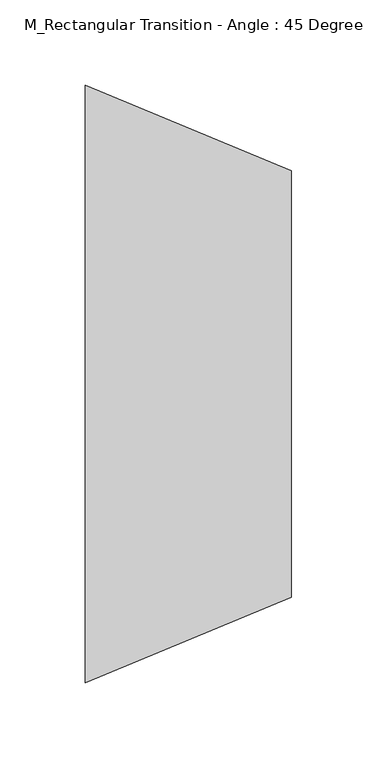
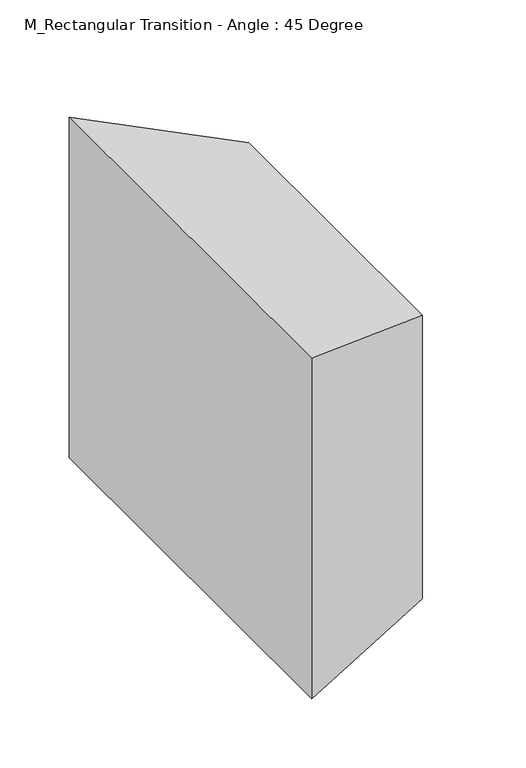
"""IFC4 building model written with IfcOpenShell, lengths in millimetres: duct fitting geometry, M_Rectangular Transition - Angle : 45 Degree."""

from ifc_helpers import new_model, si_unit, origin, place, context, project, spatial, faceted_brep, source, transform, mapped, element, save


def m_rectangular_transition_angle_45_degree_a06503df(model_context):
    return source(origin(), model_context, "Body", "Brep", [
        faceted_brep([(120.7106781, -125.0, 115.45), (120.7106781, -125.0, -134.55), (120.7106781, 125.0, -134.55), (120.7106781, 125.0, 115.45), (0.0, -175.0, 150.0), (0.0, 175.0, 150.0), (0.0, 175.0, -150.0), (0.0, -175.0, -150.0)], [[[0, 1, 2, 3]], [[4, 5, 6, 7]], [[4, 7, 1, 0]], [[7, 6, 2, 1]], [[6, 5, 3, 2]], [[5, 4, 0, 3]]]),
        faceted_brep([(120.7106781, -125.0, 115.45), (120.7106781, -125.0, -134.55), (120.7106781, 125.0, -134.55), (120.7106781, 125.0, 115.45), (0.0, -175.0, 150.0), (0.0, 175.0, 150.0), (0.0, 175.0, -150.0), (0.0, -175.0, -150.0)], [[[0, 1, 2, 3]], [[4, 5, 6, 7]], [[4, 7, 1, 0]], [[7, 6, 2, 1]], [[6, 5, 3, 2]], [[5, 4, 0, 3]]]),
        faceted_brep([(120.7106781, -125.0, 115.45), (120.7106781, -125.0, -134.55), (120.7106781, 125.0, -134.55), (120.7106781, 125.0, 115.45), (0.0, -175.0, 150.0), (0.0, 175.0, 150.0), (0.0, 175.0, -150.0), (0.0, -175.0, -150.0)], [[[0, 1, 2, 3]], [[4, 5, 6, 7]], [[4, 7, 1, 0]], [[7, 6, 2, 1]], [[6, 5, 3, 2]], [[5, 4, 0, 3]]]),
    ])


if __name__ == "__main__":
    model = new_model("IFC4")
    model_context = context("Model", 3, world=origin())
    ifc_project = project(units=[si_unit("LENGTHUNIT", "METRE", prefix="MILLI")], contexts=[model_context])
    site = spatial("IfcSite", under=ifc_project)
    building = spatial("IfcBuilding", under=site)
    placement = place(None, origin())
    m_rectangular_transition_angle_45_degree_shape = m_rectangular_transition_angle_45_degree_a06503df(model_context)
    element("IfcDuctFitting", 1, ObjectType="M_Rectangular Transition - Angle : 45 Degree", at=placement, inside=building, context=model_context, shape_type="MappedRepresentation", body=[
        mapped(m_rectangular_transition_angle_45_degree_shape, transform((0.0, 0.0, 0.0), x_axis=(1.0, 0.0, 0.0), y_axis=(0.0, 1.0, 0.0), z_axis=(0.0, 0.0, 1.0))),
    ])
    save(model, "model.ifc")
